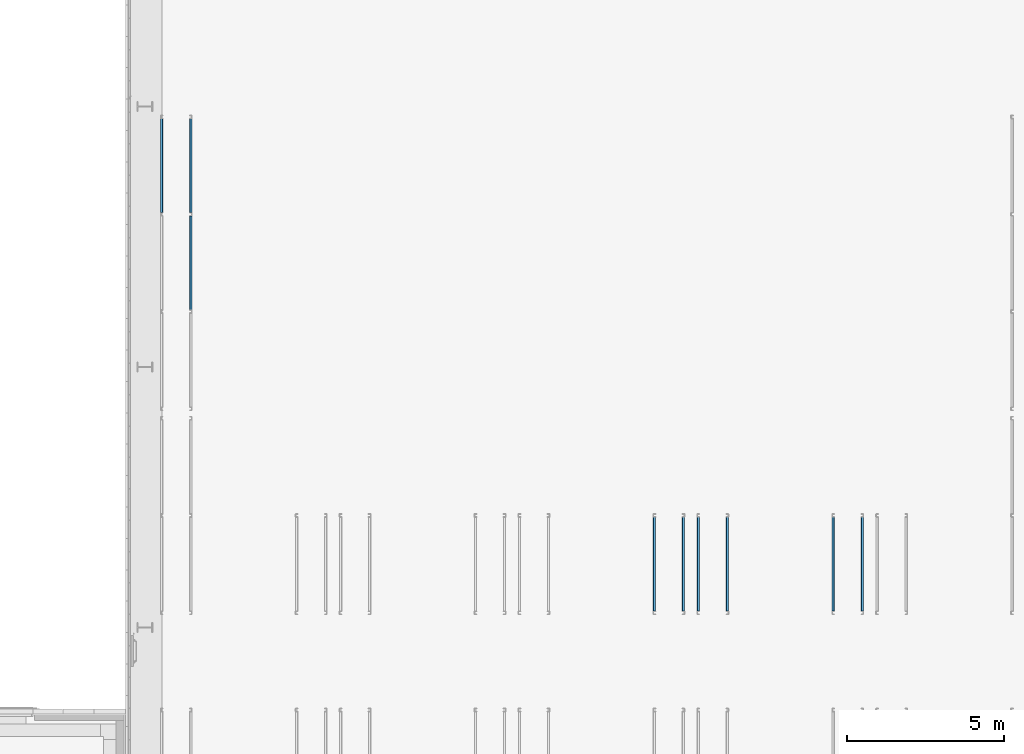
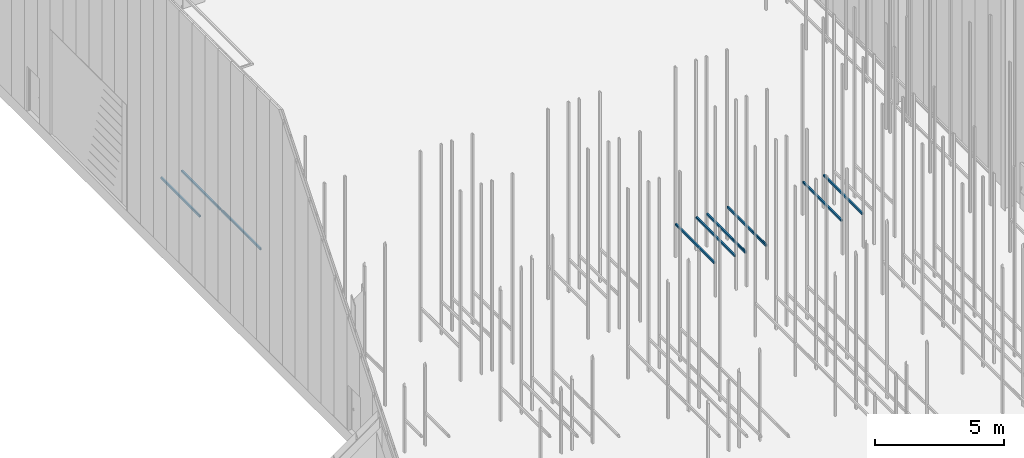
# One storey, part 155 of 302: 9 beams.
"""IFC2X3 building model written with IfcOpenShell, lengths in metres."""

from ifc_helpers import new_model, entity, si_unit, converted_unit, derived_unit, direction, frame, frame_2d, origin, place, context, subcontext, project, spatial, polyline, circle_curve, parameter, trimmed, segment, composite_curve, outline, extrude, material, type_object, element, save


model = new_model("IFC2X3")

# Units and contexts
model_context = context("Model", 3, precision=1e-05, world=origin(), true_north=direction((6.12303176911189e-17, 1.0)))
body_context = subcontext(model_context, "Body", "Model", "MODEL_VIEW")
ifc_project = project(units=[si_unit("LENGTHUNIT", "METRE"), si_unit("AREAUNIT", "SQUARE_METRE"), si_unit("VOLUMEUNIT", "CUBIC_METRE"), converted_unit("PLANEANGLEUNIT", "DEGREE", entity("IfcRatioMeasure", 0.0174532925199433), si_unit("PLANEANGLEUNIT", "RADIAN"), dimensions=[0, 0, 0, 0, 0, 0, 0]), si_unit("MASSUNIT", "GRAM", prefix="KILO"), derived_unit("MASSDENSITYUNIT", [(si_unit("MASSUNIT", "GRAM", prefix="KILO"), 1), (si_unit("LENGTHUNIT", "METRE"), -3)]), derived_unit("MOMENTOFINERTIAUNIT", [(si_unit("LENGTHUNIT", "METRE"), 4)]), si_unit("TIMEUNIT", "SECOND"), si_unit("FREQUENCYUNIT", "HERTZ"), si_unit("THERMODYNAMICTEMPERATUREUNIT", "DEGREE_CELSIUS"), derived_unit("THERMALTRANSMITTANCEUNIT", [(si_unit("MASSUNIT", "GRAM", prefix="KILO"), 1), (si_unit("THERMODYNAMICTEMPERATUREUNIT", "KELVIN"), -1), (si_unit("TIMEUNIT", "SECOND"), -3)]), derived_unit("VOLUMETRICFLOWRATEUNIT", [(si_unit("LENGTHUNIT", "METRE"), 3), (si_unit("TIMEUNIT", "SECOND"), -1)]), si_unit("ELECTRICCURRENTUNIT", "AMPERE"), si_unit("ELECTRICVOLTAGEUNIT", "VOLT"), si_unit("POWERUNIT", "WATT"), si_unit("FORCEUNIT", "NEWTON", prefix="KILO"), si_unit("ILLUMINANCEUNIT", "LUX"), si_unit("LUMINOUSFLUXUNIT", "LUMEN"), si_unit("LUMINOUSINTENSITYUNIT", "CANDELA"), derived_unit("USERDEFINED", [(si_unit("MASSUNIT", "GRAM", prefix="KILO"), -1), (si_unit("LENGTHUNIT", "METRE"), -2), (si_unit("TIMEUNIT", "SECOND"), 3), (si_unit("LUMINOUSFLUXUNIT", "LUMEN"), 1)]), derived_unit("LINEARVELOCITYUNIT", [(si_unit("LENGTHUNIT", "METRE"), 1), (si_unit("TIMEUNIT", "SECOND"), -1)]), si_unit("PRESSUREUNIT", "PASCAL"), derived_unit("USERDEFINED", [(si_unit("LENGTHUNIT", "METRE"), -2), (si_unit("MASSUNIT", "GRAM", prefix="KILO"), 1), (si_unit("TIMEUNIT", "SECOND"), -2)]), derived_unit("LINEARFORCEUNIT", [(si_unit("MASSUNIT", "GRAM", prefix="KILO"), 1), (si_unit("LENGTHUNIT", "METRE"), 1), (si_unit("TIMEUNIT", "SECOND"), -2), (si_unit("LENGTHUNIT", "METRE"), -1)]), derived_unit("PLANARFORCEUNIT", [(si_unit("MASSUNIT", "GRAM", prefix="KILO"), 1), (si_unit("LENGTHUNIT", "METRE"), 1), (si_unit("TIMEUNIT", "SECOND"), -2), (si_unit("LENGTHUNIT", "METRE"), -2)])], contexts=[model_context])

# Site, building, storey
site_placement = place(None, origin())
site = spatial("IfcSite", under=ifc_project, at=site_placement, Name="Default", CompositionType="ELEMENT")
building_placement = place(site_placement, origin())
building = spatial("IfcBuilding", under=site, at=building_placement, CompositionType="ELEMENT")
storey_placement = place(building_placement, frame((0.0, 0.0, -1.3)))
storey = spatial("IfcBuildingStorey", under=building, at=storey_placement, Name="00_EG", CompositionType="ELEMENT", Elevation=-1.3)

# Beams
ifc_material = material(Name="Metall - Baustahl S235 blau")
beam_type = type_object("IfcBeamType", Name="RHS Träger (EN 10219-2):RHS 100 x 75 x 5", PredefinedType="NOTDEFINED")
beam_1_placement = place(storey_placement, frame((-206.415111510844, 61.5488562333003, 2.885), z_axis=(0.0, 0.0, 1.0), x_axis=(0.0, 1.0, 0.0)))
element("IfcBeam", 1, at=beam_1_placement, inside=storey, type_object=beam_type, material=ifc_material, Name="RHS Träger (EN 10219-2):RHS 100 x 75 x 5", ObjectType="RHS Träger (EN 10219-2):RHS 100 x 75 x 5", context=body_context, shape_type="SweptSolid", body=[
    extrude(outline(composite_curve([segment(trimmed(circle_curve(frame_2d((-0.0274999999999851, -0.0400000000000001), x_axis=(1.0, 0.0)), 0.01), [parameter(180.0)], [parameter(270.0)], True, "PARAMETER"), True, "CONTINUOUS"), segment(polyline([(-0.0274999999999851, -0.0500000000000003), (0.0274999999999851, -0.0500000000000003)]), True, "CONTINUOUS"), segment(trimmed(circle_curve(frame_2d((0.0274999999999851, -0.0400000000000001), x_axis=(1.0, 0.0)), 0.01), [parameter(270.0)], [parameter(5.08888749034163e-14)], True, "PARAMETER"), True, "CONTINUOUS"), segment(polyline([(0.0375000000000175, -0.0400000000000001), (0.0375000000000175, 0.0399999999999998)]), True, "CONTINUOUS"), segment(trimmed(circle_curve(frame_2d((0.0274999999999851, 0.0399999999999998), x_axis=(1.0, 0.0)), 0.01), [parameter(360.0)], [parameter(89.9999999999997)], True, "PARAMETER"), True, "CONTINUOUS"), segment(polyline([(0.0274999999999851, 0.0499999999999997), (-0.0274999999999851, 0.0499999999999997)]), True, "CONTINUOUS"), segment(trimmed(circle_curve(frame_2d((-0.0274999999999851, 0.0399999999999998), x_axis=(1.0, 0.0)), 0.01), [parameter(90.0000000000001)], [parameter(180.0)], True, "PARAMETER"), True, "CONTINUOUS"), segment(polyline([(-0.0374999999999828, 0.0399999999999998), (-0.0374999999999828, -0.0400000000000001)]), True, "CONTINUOUS")], self_intersect=False), holes=[composite_curve([segment(polyline([(0.0274999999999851, -0.0450000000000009), (-0.0274999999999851, -0.0450000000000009)]), True, "CONTINUOUS"), segment(trimmed(circle_curve(frame_2d((-0.0274999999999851, -0.0400000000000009), x_axis=(1.0, 0.0)), 0.005), [parameter(180.0)], [parameter(270.0)], True, "PARAMETER"), False, "CONTINUOUS"), segment(polyline([(-0.0325000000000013, -0.0400000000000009), (-0.0325000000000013, 0.039999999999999)]), True, "CONTINUOUS"), segment(trimmed(circle_curve(frame_2d((-0.0274999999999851, 0.039999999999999), x_axis=(1.0, 0.0)), 0.005), [parameter(90.0000000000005)], [parameter(180.0)], True, "PARAMETER"), False, "CONTINUOUS"), segment(polyline([(-0.0274999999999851, 0.044999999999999), (0.0274999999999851, 0.044999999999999)]), True, "CONTINUOUS"), segment(trimmed(circle_curve(frame_2d((0.0274999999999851, 0.039999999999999), x_axis=(1.0, 0.0)), 0.005), [parameter(0.0)], [parameter(90.0000000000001)], True, "PARAMETER"), False, "CONTINUOUS"), segment(polyline([(0.0325000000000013, 0.039999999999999), (0.0325000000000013, -0.0400000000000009)]), True, "CONTINUOUS"), segment(trimmed(circle_curve(frame_2d((0.0274999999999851, -0.0400000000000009), x_axis=(1.0, 0.0)), 0.005), [parameter(270.0)], [parameter(4.07110999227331e-13)], True, "PARAMETER"), False, "CONTINUOUS")], self_intersect=False)]), frame((-0.000799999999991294, 0.0375000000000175, -0.0500000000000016), z_axis=(1.0, 0.0, 0.0), x_axis=(0.0, -1.0, 0.0)), (0.0, 0.0, 1.0), 3.00069999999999),
])
beam_2_placement = place(storey_placement, frame((-205.565111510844, 61.5488562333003, 2.885), z_axis=(0.0, 0.0, 1.0), x_axis=(0.0, 1.0, 0.0)))
element("IfcBeam", 2, at=beam_2_placement, inside=storey, type_object=beam_type, material=ifc_material, Name="RHS Träger (EN 10219-2):RHS 100 x 75 x 5", ObjectType="RHS Träger (EN 10219-2):RHS 100 x 75 x 5", context=body_context, shape_type="SweptSolid", body=[
    extrude(outline(composite_curve([segment(polyline([(-0.0399999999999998, -0.0374999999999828), (0.0400000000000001, -0.0374999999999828)]), True, "CONTINUOUS"), segment(trimmed(circle_curve(frame_2d((0.0400000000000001, -0.0274999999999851), x_axis=(0.0, 1.0)), 0.01), [parameter(180.0)], [parameter(270.0)], True, "PARAMETER"), True, "CONTINUOUS"), segment(polyline([(0.05, -0.0274999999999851), (0.05, 0.0274999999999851)]), True, "CONTINUOUS"), segment(trimmed(circle_curve(frame_2d((0.0400000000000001, 0.0274999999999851), x_axis=(0.0, 1.0)), 0.01), [parameter(270.0)], [parameter(4.07110999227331e-13)], True, "PARAMETER"), True, "CONTINUOUS"), segment(polyline([(0.0400000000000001, 0.0375000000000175), (-0.0399999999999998, 0.0375000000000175)]), True, "CONTINUOUS"), segment(trimmed(circle_curve(frame_2d((-0.0399999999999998, 0.0274999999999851), x_axis=(0.0, 1.0)), 0.01), [parameter(360.0)], [parameter(90.0000000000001)], True, "PARAMETER"), True, "CONTINUOUS"), segment(polyline([(-0.05, 0.0274999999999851), (-0.05, -0.0274999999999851)]), True, "CONTINUOUS"), segment(trimmed(circle_curve(frame_2d((-0.0399999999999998, -0.0274999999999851), x_axis=(0.0, 1.0)), 0.01), [parameter(90.0000000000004)], [parameter(180.0)], True, "PARAMETER"), True, "CONTINUOUS")], self_intersect=False), holes=[composite_curve([segment(trimmed(circle_curve(frame_2d((-0.0400000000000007, 0.0274999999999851), x_axis=(0.0, 1.0)), 0.005), [parameter(360.0)], [parameter(89.9999999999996)], True, "PARAMETER"), False, "CONTINUOUS"), segment(polyline([(-0.0400000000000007, 0.0325000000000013), (0.0399999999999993, 0.0325000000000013)]), True, "CONTINUOUS"), segment(trimmed(circle_curve(frame_2d((0.0399999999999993, 0.0274999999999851), x_axis=(0.0, 1.0)), 0.005), [parameter(270.0)], [parameter(0.0)], True, "PARAMETER"), False, "CONTINUOUS"), segment(polyline([(0.0449999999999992, 0.0274999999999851), (0.0449999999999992, -0.0274999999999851)]), True, "CONTINUOUS"), segment(trimmed(circle_curve(frame_2d((0.0399999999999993, -0.0274999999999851), x_axis=(0.0, 1.0)), 0.005), [parameter(180.0)], [parameter(269.999999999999)], True, "PARAMETER"), False, "CONTINUOUS"), segment(polyline([(0.0399999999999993, -0.0325000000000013), (-0.0400000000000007, -0.0325000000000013)]), True, "CONTINUOUS"), segment(trimmed(circle_curve(frame_2d((-0.0400000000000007, -0.0274999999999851), x_axis=(0.0, 1.0)), 0.005), [parameter(90.0000000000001)], [parameter(180.0)], True, "PARAMETER"), False, "CONTINUOUS"), segment(polyline([(-0.0450000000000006, -0.0274999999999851), (-0.0450000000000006, 0.0274999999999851)]), True, "CONTINUOUS")], self_intersect=False)]), frame((-0.000799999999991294, -0.0375000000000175, -0.0500000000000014), z_axis=(1.0, 0.0, 0.0), x_axis=(0.0, 0.0, -1.0)), (0.0, 0.0, 1.0), 3.00069999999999),
])
beam_3_placement = place(storey_placement, frame((-205.565111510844, 58.448088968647, 2.885), z_axis=(0.0, 0.0, 1.0), x_axis=(0.0, 1.0, 0.0)))
element("IfcBeam", 3, at=beam_3_placement, inside=storey, type_object=beam_type, material=ifc_material, Name="RHS Träger (EN 10219-2):RHS 100 x 75 x 5", ObjectType="RHS Träger (EN 10219-2):RHS 100 x 75 x 5", context=body_context, shape_type="SweptSolid", body=[
    extrude(outline(composite_curve([segment(polyline([(-0.0399999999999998, -0.0374999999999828), (0.0400000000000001, -0.0374999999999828)]), True, "CONTINUOUS"), segment(trimmed(circle_curve(frame_2d((0.0399999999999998, -0.0274999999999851), x_axis=(0.0, 1.0)), 0.01), [parameter(180.0)], [parameter(270.0)], True, "PARAMETER"), True, "CONTINUOUS"), segment(polyline([(0.05, -0.0274999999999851), (0.05, 0.0274999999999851)]), True, "CONTINUOUS"), segment(trimmed(circle_curve(frame_2d((0.0399999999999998, 0.0274999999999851), x_axis=(0.0, 1.0)), 0.01), [parameter(270.0)], [parameter(4.07110999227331e-13)], True, "PARAMETER"), True, "CONTINUOUS"), segment(polyline([(0.0400000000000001, 0.0375000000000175), (-0.0399999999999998, 0.0375000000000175)]), True, "CONTINUOUS"), segment(trimmed(circle_curve(frame_2d((-0.0400000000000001, 0.0274999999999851), x_axis=(0.0, 1.0)), 0.01), [parameter(360.0)], [parameter(90.0000000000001)], True, "PARAMETER"), True, "CONTINUOUS"), segment(polyline([(-0.05, 0.0274999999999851), (-0.05, -0.0274999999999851)]), True, "CONTINUOUS"), segment(trimmed(circle_curve(frame_2d((-0.0400000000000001, -0.0274999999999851), x_axis=(0.0, 1.0)), 0.01), [parameter(90.0000000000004)], [parameter(180.0)], True, "PARAMETER"), True, "CONTINUOUS")], self_intersect=False), holes=[composite_curve([segment(trimmed(circle_curve(frame_2d((-0.0400000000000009, 0.0274999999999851), x_axis=(0.0, 1.0)), 0.005), [parameter(360.0)], [parameter(89.9999999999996)], True, "PARAMETER"), False, "CONTINUOUS"), segment(polyline([(-0.0400000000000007, 0.0325000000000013), (0.0399999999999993, 0.0325000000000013)]), True, "CONTINUOUS"), segment(trimmed(circle_curve(frame_2d((0.039999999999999, 0.0274999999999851), x_axis=(0.0, 1.0)), 0.005), [parameter(270.0)], [parameter(0.0)], True, "PARAMETER"), False, "CONTINUOUS"), segment(polyline([(0.0449999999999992, 0.0274999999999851), (0.0449999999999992, -0.0274999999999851)]), True, "CONTINUOUS"), segment(trimmed(circle_curve(frame_2d((0.039999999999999, -0.0274999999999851), x_axis=(0.0, 1.0)), 0.005), [parameter(180.0)], [parameter(269.999999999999)], True, "PARAMETER"), False, "CONTINUOUS"), segment(polyline([(0.0399999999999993, -0.0325000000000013), (-0.0400000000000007, -0.0325000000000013)]), True, "CONTINUOUS"), segment(trimmed(circle_curve(frame_2d((-0.0400000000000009, -0.0274999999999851), x_axis=(0.0, 1.0)), 0.005), [parameter(90.0000000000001)], [parameter(180.0)], True, "PARAMETER"), False, "CONTINUOUS"), segment(polyline([(-0.0450000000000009, -0.0274999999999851), (-0.0450000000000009, 0.0274999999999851)]), True, "CONTINUOUS")], self_intersect=False)]), frame((9.99999999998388e-05, -0.0375000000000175, -0.0500000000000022), z_axis=(1.0, 0.0, 0.0), x_axis=(0.0, 0.0, -1.0)), (0.0, 0.0, 1.0), 2.99979999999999),
])
beam_4_placement = place(storey_placement, frame((-190.715111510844, 48.848088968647, 2.885), z_axis=(0.0, 0.0, 1.0), x_axis=(0.0, 1.0, 0.0)))
element("IfcBeam", 4, at=beam_4_placement, inside=storey, type_object=beam_type, material=ifc_material, Name="RHS Träger (EN 10219-2):RHS 100 x 75 x 5", ObjectType="RHS Träger (EN 10219-2):RHS 100 x 75 x 5", context=body_context, shape_type="SweptSolid", body=[
    extrude(outline(composite_curve([segment(trimmed(circle_curve(frame_2d((-0.0274999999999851, -0.0400000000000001), x_axis=(1.0, 0.0)), 0.01), [parameter(180.0)], [parameter(270.0)], True, "PARAMETER"), True, "CONTINUOUS"), segment(polyline([(-0.0274999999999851, -0.05), (0.0274999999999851, -0.05)]), True, "CONTINUOUS"), segment(trimmed(circle_curve(frame_2d((0.0274999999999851, -0.0400000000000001), x_axis=(1.0, 0.0)), 0.01), [parameter(270.0)], [parameter(5.08888749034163e-14)], True, "PARAMETER"), True, "CONTINUOUS"), segment(polyline([(0.0375000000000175, -0.0399999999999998), (0.0375000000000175, 0.0400000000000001)]), True, "CONTINUOUS"), segment(trimmed(circle_curve(frame_2d((0.0274999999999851, 0.0399999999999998), x_axis=(1.0, 0.0)), 0.01), [parameter(360.0)], [parameter(89.9999999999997)], True, "PARAMETER"), True, "CONTINUOUS"), segment(polyline([(0.0274999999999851, 0.05), (-0.0274999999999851, 0.05)]), True, "CONTINUOUS"), segment(trimmed(circle_curve(frame_2d((-0.0274999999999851, 0.0399999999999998), x_axis=(1.0, 0.0)), 0.01), [parameter(90.0000000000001)], [parameter(180.0)], True, "PARAMETER"), True, "CONTINUOUS"), segment(polyline([(-0.0374999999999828, 0.0400000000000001), (-0.0374999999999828, -0.0399999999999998)]), True, "CONTINUOUS")], self_intersect=False), holes=[composite_curve([segment(polyline([(0.0274999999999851, -0.0450000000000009), (-0.0274999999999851, -0.0450000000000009)]), True, "CONTINUOUS"), segment(trimmed(circle_curve(frame_2d((-0.0274999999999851, -0.0400000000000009), x_axis=(1.0, 0.0)), 0.005), [parameter(180.0)], [parameter(270.0)], True, "PARAMETER"), False, "CONTINUOUS"), segment(polyline([(-0.0325000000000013, -0.0400000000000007), (-0.0325000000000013, 0.0399999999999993)]), True, "CONTINUOUS"), segment(trimmed(circle_curve(frame_2d((-0.0274999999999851, 0.039999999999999), x_axis=(1.0, 0.0)), 0.005), [parameter(90.0000000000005)], [parameter(180.0)], True, "PARAMETER"), False, "CONTINUOUS"), segment(polyline([(-0.0274999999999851, 0.0449999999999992), (0.0274999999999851, 0.0449999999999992)]), True, "CONTINUOUS"), segment(trimmed(circle_curve(frame_2d((0.0274999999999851, 0.039999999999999), x_axis=(1.0, 0.0)), 0.005), [parameter(0.0)], [parameter(90.0000000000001)], True, "PARAMETER"), False, "CONTINUOUS"), segment(polyline([(0.0325000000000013, 0.0399999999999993), (0.0325000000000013, -0.0400000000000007)]), True, "CONTINUOUS"), segment(trimmed(circle_curve(frame_2d((0.0274999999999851, -0.0400000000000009), x_axis=(1.0, 0.0)), 0.005), [parameter(270.0)], [parameter(4.07110999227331e-13)], True, "PARAMETER"), False, "CONTINUOUS")], self_intersect=False)]), frame((9.99999999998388e-05, 0.0375000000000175, -0.0500000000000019), z_axis=(1.0, 0.0, 0.0), x_axis=(0.0, -1.0, 0.0)), (0.0, 0.0, 1.0), 2.99979999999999),
])
beam_5_placement = place(storey_placement, frame((-189.865111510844, 48.848088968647, 2.885), z_axis=(0.0, 0.0, 1.0), x_axis=(0.0, 1.0, 0.0)))
element("IfcBeam", 5, at=beam_5_placement, inside=storey, type_object=beam_type, material=ifc_material, Name="RHS Träger (EN 10219-2):RHS 100 x 75 x 5", ObjectType="RHS Träger (EN 10219-2):RHS 100 x 75 x 5", context=body_context, shape_type="SweptSolid", body=[
    extrude(outline(composite_curve([segment(polyline([(-0.0399999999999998, -0.0375000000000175), (0.0400000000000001, -0.0375000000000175)]), True, "CONTINUOUS"), segment(trimmed(circle_curve(frame_2d((0.0399999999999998, -0.0275000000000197), x_axis=(0.0, 1.0)), 0.01), [parameter(180.0)], [parameter(270.0)], True, "PARAMETER"), True, "CONTINUOUS"), segment(polyline([(0.05, -0.0275000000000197), (0.05, 0.0274999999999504)]), True, "CONTINUOUS"), segment(trimmed(circle_curve(frame_2d((0.0399999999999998, 0.0274999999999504), x_axis=(0.0, 1.0)), 0.01), [parameter(270.0)], [parameter(4.07110999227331e-13)], True, "PARAMETER"), True, "CONTINUOUS"), segment(polyline([(0.0400000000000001, 0.0374999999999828), (-0.0399999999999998, 0.0374999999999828)]), True, "CONTINUOUS"), segment(trimmed(circle_curve(frame_2d((-0.0400000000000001, 0.0274999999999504), x_axis=(0.0, 1.0)), 0.01), [parameter(360.0)], [parameter(90.0000000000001)], True, "PARAMETER"), True, "CONTINUOUS"), segment(polyline([(-0.05, 0.0274999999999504), (-0.05, -0.0275000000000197)]), True, "CONTINUOUS"), segment(trimmed(circle_curve(frame_2d((-0.0400000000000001, -0.0275000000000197), x_axis=(0.0, 1.0)), 0.01), [parameter(90.0000000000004)], [parameter(180.0)], True, "PARAMETER"), True, "CONTINUOUS")], self_intersect=False), holes=[composite_curve([segment(trimmed(circle_curve(frame_2d((-0.0400000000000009, 0.0274999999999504), x_axis=(0.0, 1.0)), 0.005), [parameter(360.0)], [parameter(89.9999999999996)], True, "PARAMETER"), False, "CONTINUOUS"), segment(polyline([(-0.0400000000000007, 0.0324999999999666), (0.0399999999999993, 0.0324999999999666)]), True, "CONTINUOUS"), segment(trimmed(circle_curve(frame_2d((0.039999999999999, 0.0274999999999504), x_axis=(0.0, 1.0)), 0.005), [parameter(270.0)], [parameter(0.0)], True, "PARAMETER"), False, "CONTINUOUS"), segment(polyline([(0.0449999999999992, 0.0274999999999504), (0.0449999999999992, -0.0275000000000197)]), True, "CONTINUOUS"), segment(trimmed(circle_curve(frame_2d((0.039999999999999, -0.0275000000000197), x_axis=(0.0, 1.0)), 0.005), [parameter(180.0)], [parameter(269.999999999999)], True, "PARAMETER"), False, "CONTINUOUS"), segment(polyline([(0.0399999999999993, -0.0325000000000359), (-0.0400000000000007, -0.0325000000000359)]), True, "CONTINUOUS"), segment(trimmed(circle_curve(frame_2d((-0.0400000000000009, -0.0275000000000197), x_axis=(0.0, 1.0)), 0.005), [parameter(90.0000000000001)], [parameter(180.0)], True, "PARAMETER"), False, "CONTINUOUS"), segment(polyline([(-0.0450000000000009, -0.0275000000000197), (-0.0450000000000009, 0.0274999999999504)]), True, "CONTINUOUS")], self_intersect=False)]), frame((9.99999999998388e-05, -0.0374999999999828, -0.0500000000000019), z_axis=(1.0, 0.0, 0.0), x_axis=(0.0, 0.0, -1.0)), (0.0, 0.0, 1.0), 2.99979999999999),
])
beam_6_placement = place(storey_placement, frame((-189.315111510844, 48.848088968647, 2.885), z_axis=(0.0, 0.0, 1.0), x_axis=(0.0, 1.0, 0.0)))
element("IfcBeam", 6, at=beam_6_placement, inside=storey, type_object=beam_type, material=ifc_material, Name="RHS Träger (EN 10219-2):RHS 100 x 75 x 5", ObjectType="RHS Träger (EN 10219-2):RHS 100 x 75 x 5", context=body_context, shape_type="SweptSolid", body=[
    extrude(outline(composite_curve([segment(trimmed(circle_curve(frame_2d((-0.0274999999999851, -0.0400000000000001), x_axis=(1.0, 0.0)), 0.01), [parameter(180.0)], [parameter(270.0)], True, "PARAMETER"), True, "CONTINUOUS"), segment(polyline([(-0.0274999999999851, -0.05), (0.0274999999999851, -0.05)]), True, "CONTINUOUS"), segment(trimmed(circle_curve(frame_2d((0.0274999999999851, -0.0400000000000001), x_axis=(1.0, 0.0)), 0.01), [parameter(270.0)], [parameter(5.08888749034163e-14)], True, "PARAMETER"), True, "CONTINUOUS"), segment(polyline([(0.0375000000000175, -0.0399999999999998), (0.0375000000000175, 0.0400000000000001)]), True, "CONTINUOUS"), segment(trimmed(circle_curve(frame_2d((0.0274999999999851, 0.0399999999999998), x_axis=(1.0, 0.0)), 0.01), [parameter(360.0)], [parameter(89.9999999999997)], True, "PARAMETER"), True, "CONTINUOUS"), segment(polyline([(0.0274999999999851, 0.05), (-0.0274999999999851, 0.05)]), True, "CONTINUOUS"), segment(trimmed(circle_curve(frame_2d((-0.0274999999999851, 0.0399999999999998), x_axis=(1.0, 0.0)), 0.01), [parameter(90.0000000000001)], [parameter(180.0)], True, "PARAMETER"), True, "CONTINUOUS"), segment(polyline([(-0.0374999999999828, 0.0400000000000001), (-0.0374999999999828, -0.0399999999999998)]), True, "CONTINUOUS")], self_intersect=False), holes=[composite_curve([segment(polyline([(0.0274999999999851, -0.0450000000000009), (-0.0274999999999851, -0.0450000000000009)]), True, "CONTINUOUS"), segment(trimmed(circle_curve(frame_2d((-0.0274999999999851, -0.0400000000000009), x_axis=(1.0, 0.0)), 0.005), [parameter(180.0)], [parameter(270.0)], True, "PARAMETER"), False, "CONTINUOUS"), segment(polyline([(-0.0325000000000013, -0.0400000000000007), (-0.0325000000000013, 0.0399999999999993)]), True, "CONTINUOUS"), segment(trimmed(circle_curve(frame_2d((-0.0274999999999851, 0.039999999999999), x_axis=(1.0, 0.0)), 0.005), [parameter(90.0000000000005)], [parameter(180.0)], True, "PARAMETER"), False, "CONTINUOUS"), segment(polyline([(-0.0274999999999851, 0.0449999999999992), (0.0274999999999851, 0.0449999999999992)]), True, "CONTINUOUS"), segment(trimmed(circle_curve(frame_2d((0.0274999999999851, 0.039999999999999), x_axis=(1.0, 0.0)), 0.005), [parameter(0.0)], [parameter(90.0000000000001)], True, "PARAMETER"), False, "CONTINUOUS"), segment(polyline([(0.0325000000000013, 0.0399999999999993), (0.0325000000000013, -0.0400000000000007)]), True, "CONTINUOUS"), segment(trimmed(circle_curve(frame_2d((0.0274999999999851, -0.0400000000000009), x_axis=(1.0, 0.0)), 0.005), [parameter(270.0)], [parameter(4.07110999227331e-13)], True, "PARAMETER"), False, "CONTINUOUS")], self_intersect=False)]), frame((9.99999999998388e-05, 0.0375000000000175, -0.0500000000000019), z_axis=(1.0, 0.0, 0.0), x_axis=(0.0, -1.0, 0.0)), (0.0, 0.0, 1.0), 2.99979999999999),
])
beam_7_placement = place(storey_placement, frame((-188.465111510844, 48.848088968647, 2.885), z_axis=(0.0, 0.0, 1.0), x_axis=(0.0, 1.0, 0.0)))
element("IfcBeam", 7, at=beam_7_placement, inside=storey, type_object=beam_type, material=ifc_material, Name="RHS Träger (EN 10219-2):RHS 100 x 75 x 5", ObjectType="RHS Träger (EN 10219-2):RHS 100 x 75 x 5", context=body_context, shape_type="SweptSolid", body=[
    extrude(outline(composite_curve([segment(polyline([(-0.0399999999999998, -0.0374999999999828), (0.0400000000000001, -0.0374999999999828)]), True, "CONTINUOUS"), segment(trimmed(circle_curve(frame_2d((0.0399999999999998, -0.0274999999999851), x_axis=(0.0, 1.0)), 0.01), [parameter(180.0)], [parameter(270.0)], True, "PARAMETER"), True, "CONTINUOUS"), segment(polyline([(0.05, -0.0274999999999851), (0.05, 0.0274999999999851)]), True, "CONTINUOUS"), segment(trimmed(circle_curve(frame_2d((0.0399999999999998, 0.0274999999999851), x_axis=(0.0, 1.0)), 0.01), [parameter(270.0)], [parameter(4.07110999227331e-13)], True, "PARAMETER"), True, "CONTINUOUS"), segment(polyline([(0.0400000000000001, 0.0375000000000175), (-0.0399999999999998, 0.0375000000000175)]), True, "CONTINUOUS"), segment(trimmed(circle_curve(frame_2d((-0.0400000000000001, 0.0274999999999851), x_axis=(0.0, 1.0)), 0.01), [parameter(360.0)], [parameter(90.0000000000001)], True, "PARAMETER"), True, "CONTINUOUS"), segment(polyline([(-0.05, 0.0274999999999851), (-0.05, -0.0274999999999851)]), True, "CONTINUOUS"), segment(trimmed(circle_curve(frame_2d((-0.0400000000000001, -0.0274999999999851), x_axis=(0.0, 1.0)), 0.01), [parameter(90.0000000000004)], [parameter(180.0)], True, "PARAMETER"), True, "CONTINUOUS")], self_intersect=False), holes=[composite_curve([segment(trimmed(circle_curve(frame_2d((-0.0400000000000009, 0.0274999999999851), x_axis=(0.0, 1.0)), 0.005), [parameter(360.0)], [parameter(89.9999999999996)], True, "PARAMETER"), False, "CONTINUOUS"), segment(polyline([(-0.0400000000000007, 0.0325000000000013), (0.0399999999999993, 0.0325000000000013)]), True, "CONTINUOUS"), segment(trimmed(circle_curve(frame_2d((0.039999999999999, 0.0274999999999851), x_axis=(0.0, 1.0)), 0.005), [parameter(270.0)], [parameter(0.0)], True, "PARAMETER"), False, "CONTINUOUS"), segment(polyline([(0.0449999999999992, 0.0274999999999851), (0.0449999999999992, -0.0274999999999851)]), True, "CONTINUOUS"), segment(trimmed(circle_curve(frame_2d((0.039999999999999, -0.0274999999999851), x_axis=(0.0, 1.0)), 0.005), [parameter(180.0)], [parameter(269.999999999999)], True, "PARAMETER"), False, "CONTINUOUS"), segment(polyline([(0.0399999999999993, -0.0325000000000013), (-0.0400000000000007, -0.0325000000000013)]), True, "CONTINUOUS"), segment(trimmed(circle_curve(frame_2d((-0.0400000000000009, -0.0274999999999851), x_axis=(0.0, 1.0)), 0.005), [parameter(90.0000000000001)], [parameter(180.0)], True, "PARAMETER"), False, "CONTINUOUS"), segment(polyline([(-0.0450000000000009, -0.0274999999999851), (-0.0450000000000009, 0.0274999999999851)]), True, "CONTINUOUS")], self_intersect=False)]), frame((9.99999999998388e-05, -0.0375000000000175, -0.0500000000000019), z_axis=(1.0, 0.0, 0.0), x_axis=(0.0, 0.0, -1.0)), (0.0, 0.0, 1.0), 2.99979999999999),
])
beam_8_placement = place(storey_placement, frame((-185.015111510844, 48.848088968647, 2.885), z_axis=(0.0, 0.0, 1.0), x_axis=(0.0, 1.0, 0.0)))
element("IfcBeam", 8, at=beam_8_placement, inside=storey, type_object=beam_type, material=ifc_material, Name="RHS Träger (EN 10219-2):RHS 100 x 75 x 5", ObjectType="RHS Träger (EN 10219-2):RHS 100 x 75 x 5", context=body_context, shape_type="SweptSolid", body=[
    extrude(outline(composite_curve([segment(trimmed(circle_curve(frame_2d((-0.0274999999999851, -0.0400000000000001), x_axis=(1.0, 0.0)), 0.01), [parameter(180.0)], [parameter(270.0)], True, "PARAMETER"), True, "CONTINUOUS"), segment(polyline([(-0.0274999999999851, -0.05), (0.0274999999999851, -0.05)]), True, "CONTINUOUS"), segment(trimmed(circle_curve(frame_2d((0.0274999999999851, -0.0400000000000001), x_axis=(1.0, 0.0)), 0.01), [parameter(270.0)], [parameter(5.08888749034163e-14)], True, "PARAMETER"), True, "CONTINUOUS"), segment(polyline([(0.0375000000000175, -0.0399999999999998), (0.0375000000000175, 0.0400000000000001)]), True, "CONTINUOUS"), segment(trimmed(circle_curve(frame_2d((0.0274999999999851, 0.0399999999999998), x_axis=(1.0, 0.0)), 0.01), [parameter(360.0)], [parameter(89.9999999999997)], True, "PARAMETER"), True, "CONTINUOUS"), segment(polyline([(0.0274999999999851, 0.05), (-0.0274999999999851, 0.05)]), True, "CONTINUOUS"), segment(trimmed(circle_curve(frame_2d((-0.0274999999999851, 0.0399999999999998), x_axis=(1.0, 0.0)), 0.01), [parameter(90.0000000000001)], [parameter(180.0)], True, "PARAMETER"), True, "CONTINUOUS"), segment(polyline([(-0.0374999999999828, 0.0400000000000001), (-0.0374999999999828, -0.0399999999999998)]), True, "CONTINUOUS")], self_intersect=False), holes=[composite_curve([segment(polyline([(0.0274999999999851, -0.0450000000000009), (-0.0274999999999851, -0.0450000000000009)]), True, "CONTINUOUS"), segment(trimmed(circle_curve(frame_2d((-0.0274999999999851, -0.0400000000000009), x_axis=(1.0, 0.0)), 0.005), [parameter(180.0)], [parameter(270.0)], True, "PARAMETER"), False, "CONTINUOUS"), segment(polyline([(-0.0325000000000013, -0.0400000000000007), (-0.0325000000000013, 0.0399999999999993)]), True, "CONTINUOUS"), segment(trimmed(circle_curve(frame_2d((-0.0274999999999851, 0.039999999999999), x_axis=(1.0, 0.0)), 0.005), [parameter(90.0000000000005)], [parameter(180.0)], True, "PARAMETER"), False, "CONTINUOUS"), segment(polyline([(-0.0274999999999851, 0.0449999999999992), (0.0274999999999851, 0.0449999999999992)]), True, "CONTINUOUS"), segment(trimmed(circle_curve(frame_2d((0.0274999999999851, 0.039999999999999), x_axis=(1.0, 0.0)), 0.005), [parameter(0.0)], [parameter(90.0000000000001)], True, "PARAMETER"), False, "CONTINUOUS"), segment(polyline([(0.0325000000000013, 0.0399999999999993), (0.0325000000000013, -0.0400000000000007)]), True, "CONTINUOUS"), segment(trimmed(circle_curve(frame_2d((0.0274999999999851, -0.0400000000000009), x_axis=(1.0, 0.0)), 0.005), [parameter(270.0)], [parameter(4.07110999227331e-13)], True, "PARAMETER"), False, "CONTINUOUS")], self_intersect=False)]), frame((0.000100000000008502, 0.0375000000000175, -0.0500000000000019), z_axis=(1.0, 0.0, 0.0), x_axis=(0.0, -1.0, 0.0)), (0.0, 0.0, 1.0), 2.99979999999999),
])
beam_9_placement = place(storey_placement, frame((-184.165111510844, 48.848088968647, 2.885), z_axis=(0.0, 0.0, 1.0), x_axis=(0.0, 1.0, 0.0)))
element("IfcBeam", 9, at=beam_9_placement, inside=storey, type_object=beam_type, material=ifc_material, Name="RHS Träger (EN 10219-2):RHS 100 x 75 x 5", ObjectType="RHS Träger (EN 10219-2):RHS 100 x 75 x 5", context=body_context, shape_type="SweptSolid", body=[
    extrude(outline(composite_curve([segment(polyline([(-0.0399999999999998, -0.0374999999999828), (0.0400000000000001, -0.0374999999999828)]), True, "CONTINUOUS"), segment(trimmed(circle_curve(frame_2d((0.0399999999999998, -0.0274999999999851), x_axis=(0.0, 1.0)), 0.01), [parameter(180.0)], [parameter(270.0)], True, "PARAMETER"), True, "CONTINUOUS"), segment(polyline([(0.05, -0.0274999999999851), (0.05, 0.0274999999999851)]), True, "CONTINUOUS"), segment(trimmed(circle_curve(frame_2d((0.0399999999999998, 0.0274999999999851), x_axis=(0.0, 1.0)), 0.01), [parameter(270.0)], [parameter(4.07110999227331e-13)], True, "PARAMETER"), True, "CONTINUOUS"), segment(polyline([(0.0400000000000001, 0.0375000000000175), (-0.0399999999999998, 0.0375000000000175)]), True, "CONTINUOUS"), segment(trimmed(circle_curve(frame_2d((-0.0400000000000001, 0.0274999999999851), x_axis=(0.0, 1.0)), 0.01), [parameter(360.0)], [parameter(90.0000000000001)], True, "PARAMETER"), True, "CONTINUOUS"), segment(polyline([(-0.05, 0.0274999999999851), (-0.05, -0.0274999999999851)]), True, "CONTINUOUS"), segment(trimmed(circle_curve(frame_2d((-0.0400000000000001, -0.0274999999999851), x_axis=(0.0, 1.0)), 0.01), [parameter(90.0000000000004)], [parameter(180.0)], True, "PARAMETER"), True, "CONTINUOUS")], self_intersect=False), holes=[composite_curve([segment(trimmed(circle_curve(frame_2d((-0.0400000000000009, 0.0274999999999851), x_axis=(0.0, 1.0)), 0.005), [parameter(360.0)], [parameter(89.9999999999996)], True, "PARAMETER"), False, "CONTINUOUS"), segment(polyline([(-0.0400000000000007, 0.0325000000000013), (0.0399999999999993, 0.0325000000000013)]), True, "CONTINUOUS"), segment(trimmed(circle_curve(frame_2d((0.039999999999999, 0.0274999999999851), x_axis=(0.0, 1.0)), 0.005), [parameter(270.0)], [parameter(0.0)], True, "PARAMETER"), False, "CONTINUOUS"), segment(polyline([(0.0449999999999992, 0.0274999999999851), (0.0449999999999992, -0.0274999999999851)]), True, "CONTINUOUS"), segment(trimmed(circle_curve(frame_2d((0.039999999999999, -0.0274999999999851), x_axis=(0.0, 1.0)), 0.005), [parameter(180.0)], [parameter(269.999999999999)], True, "PARAMETER"), False, "CONTINUOUS"), segment(polyline([(0.0399999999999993, -0.0325000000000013), (-0.0400000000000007, -0.0325000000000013)]), True, "CONTINUOUS"), segment(trimmed(circle_curve(frame_2d((-0.0400000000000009, -0.0274999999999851), x_axis=(0.0, 1.0)), 0.005), [parameter(90.0000000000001)], [parameter(180.0)], True, "PARAMETER"), False, "CONTINUOUS"), segment(polyline([(-0.0450000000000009, -0.0274999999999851), (-0.0450000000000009, 0.0274999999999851)]), True, "CONTINUOUS")], self_intersect=False)]), frame((0.000100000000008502, -0.0375000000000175, -0.0500000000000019), z_axis=(1.0, 0.0, 0.0), x_axis=(0.0, 0.0, -1.0)), (0.0, 0.0, 1.0), 2.99979999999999),
])

save(model, "model.ifc")
